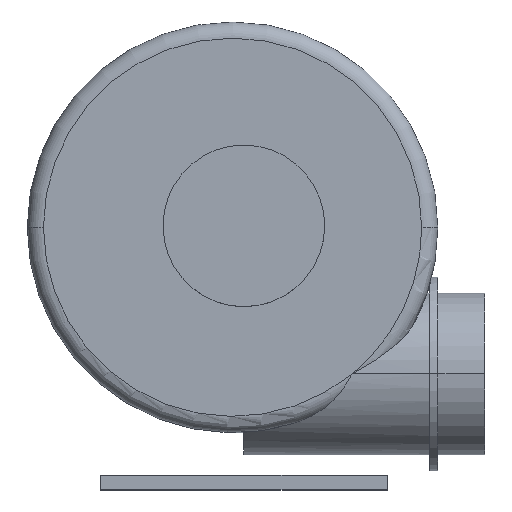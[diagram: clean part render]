
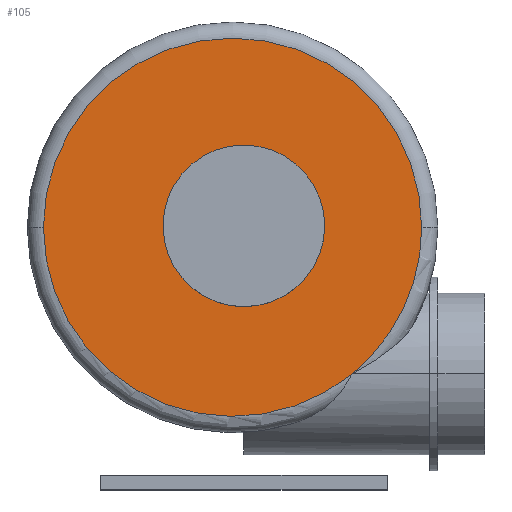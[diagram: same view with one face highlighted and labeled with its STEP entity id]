
A CAD part, top view. The second image highlights one B-rep face of the part: STEP entity #105.
In plain terms, the highlighted planar face has unit normal (0, 0, 1).
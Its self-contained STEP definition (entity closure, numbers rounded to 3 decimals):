
#1 = VERTEX_POINT ( 'NONE', #224 ) ;
#15 = CARTESIAN_POINT ( 'NONE',  ( 220.005, -1.619, 100. ) ) ;
#16 = CARTESIAN_POINT ( 'NONE',  ( 133.849, -183., 100. ) ) ;
#104 = EDGE_CURVE ( 'NONE', #1, #527, #322, .T. ) ;
#105 = ADVANCED_FACE ( 'NONE', ( #693, #1753 ), #1288, .T. ) ;
#146 = DIRECTION ( 'NONE',  ( 0., 0., 1. ) ) ;
#224 = CARTESIAN_POINT ( 'NONE',  ( 100., 0., 100. ) ) ;
#322 = CIRCLE ( 'NONE', #1212, 100. ) ;
#362 = AXIS2_PLACEMENT_3D ( 'NONE', #1482, #654, #1615 ) ;
#375 = AXIS2_PLACEMENT_3D ( 'NONE', #1478, #645, #1611 ) ;
#376 = ORIENTED_EDGE ( 'NONE', *, *, #1718, .F. ) ;
#459 = CARTESIAN_POINT ( 'NONE',  ( 0., 0., 100. ) ) ;
#527 = VERTEX_POINT ( 'NONE', #1285 ) ;
#536 = EDGE_LOOP ( 'NONE', ( #376, #1078 ) ) ;
#564 = CIRCLE ( 'NONE', #362, 100. ) ;
#601 = DIRECTION ( 'NONE',  ( 1., 0., 0. ) ) ;
#602 = CIRCLE ( 'NONE', #375, 234.005 ) ;
#626 = CARTESIAN_POINT ( 'NONE',  ( -14., -1.619, 100. ) ) ;
#645 = DIRECTION ( 'NONE',  ( 0., 0., 1. ) ) ;
#654 = DIRECTION ( 'NONE',  ( 0., 0., 1. ) ) ;
#670 = AXIS2_PLACEMENT_3D ( 'NONE', #1012, #146, #1146 ) ;
#676 = VERTEX_POINT ( 'NONE', #1573 ) ;
#693 = FACE_OUTER_BOUND ( 'NONE', #1559, .T. ) ;
#699 = VERTEX_POINT ( 'NONE', #16 ) ;
#738 = DIRECTION ( 'NONE',  ( 0., 0., 1. ) ) ;
#744 = AXIS2_PLACEMENT_3D ( 'NONE', #626, #1590, #774 ) ;
#774 = DIRECTION ( 'NONE',  ( 1., 0., 0. ) ) ;
#1002 = CIRCLE ( 'NONE', #670, 234.005 ) ;
#1012 = CARTESIAN_POINT ( 'NONE',  ( -14., -1.619, 100. ) ) ;
#1078 = ORIENTED_EDGE ( 'NONE', *, *, #104, .F. ) ;
#1081 = VERTEX_POINT ( 'NONE', #15 ) ;
#1120 = ORIENTED_EDGE ( 'NONE', *, *, #1691, .T. ) ;
#1146 = DIRECTION ( 'NONE',  ( 1., 0., 0. ) ) ;
#1167 = AXIS2_PLACEMENT_3D ( 'NONE', #1562, #738, #1695 ) ;
#1212 = AXIS2_PLACEMENT_3D ( 'NONE', #459, #1422, #601 ) ;
#1285 = CARTESIAN_POINT ( 'NONE',  ( -100., 0., 100. ) ) ;
#1288 = PLANE ( 'NONE',  #1167 ) ;
#1359 = EDGE_CURVE ( 'NONE', #699, #1081, #1811, .T. ) ;
#1370 = ORIENTED_EDGE ( 'NONE', *, *, #1359, .T. ) ;
#1413 = EDGE_CURVE ( 'NONE', #1081, #676, #1002, .T. ) ;
#1422 = DIRECTION ( 'NONE',  ( 0., 0., 1. ) ) ;
#1432 = ORIENTED_EDGE ( 'NONE', *, *, #1413, .T. ) ;
#1478 = CARTESIAN_POINT ( 'NONE',  ( -14., -1.619, 100. ) ) ;
#1482 = CARTESIAN_POINT ( 'NONE',  ( 0., 0., 100. ) ) ;
#1559 = EDGE_LOOP ( 'NONE', ( #1370, #1432, #1120 ) ) ;
#1562 = CARTESIAN_POINT ( 'NONE',  ( -14., -1.619, 100. ) ) ;
#1573 = CARTESIAN_POINT ( 'NONE',  ( -248.005, -1.619, 100. ) ) ;
#1590 = DIRECTION ( 'NONE',  ( 0., 0., 1. ) ) ;
#1611 = DIRECTION ( 'NONE',  ( 1., 0., 0. ) ) ;
#1615 = DIRECTION ( 'NONE',  ( 1., 0., 0. ) ) ;
#1691 = EDGE_CURVE ( 'NONE', #676, #699, #602, .T. ) ;
#1695 = DIRECTION ( 'NONE',  ( 1., 0., 0. ) ) ;
#1718 = EDGE_CURVE ( 'NONE', #527, #1, #564, .T. ) ;
#1753 = FACE_BOUND ( 'NONE', #536, .T. ) ;
#1811 = CIRCLE ( 'NONE', #744, 234.005 ) ;
